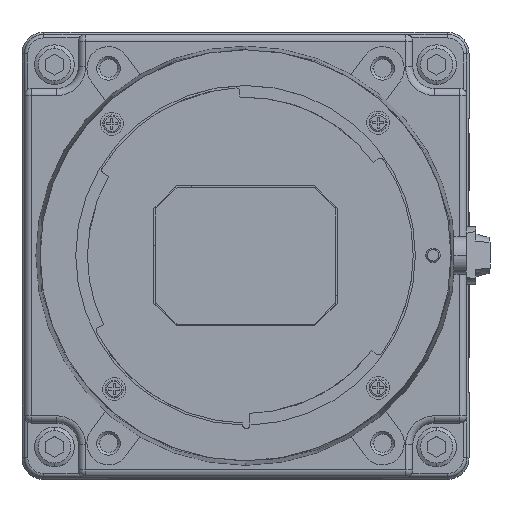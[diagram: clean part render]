
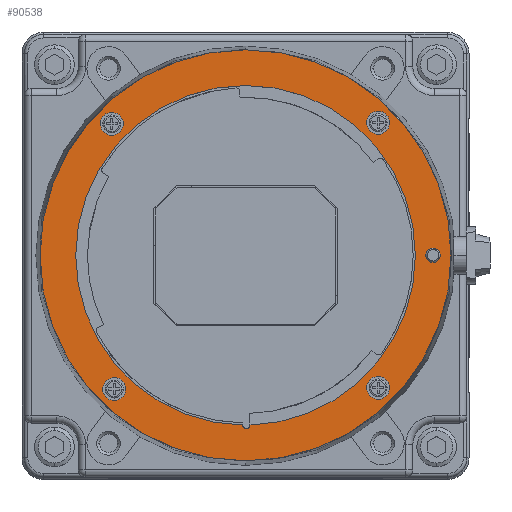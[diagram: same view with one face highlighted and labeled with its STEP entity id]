
A CAD part, top view. The second image highlights one B-rep face of the part: STEP entity #90538.
In plain terms, the highlighted planar face has unit normal (0, 0, 1).
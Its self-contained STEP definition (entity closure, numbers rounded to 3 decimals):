
#30246=CARTESIAN_POINT('',(-55.612,199.,122.901));
#30247=DIRECTION('',(0.,0.,-1.));
#30248=DIRECTION('',(0.,-1.,0.));
#30249=AXIS2_PLACEMENT_3D('',#30246,#30247,#30248);
#30251=CARTESIAN_POINT('',(-55.612,199.,122.901));
#30252=DIRECTION('',(0.,0.,-1.));
#30253=DIRECTION('',(0.,1.,0.));
#30254=AXIS2_PLACEMENT_3D('',#30251,#30252,#30253);
#30256=CARTESIAN_POINT('',(-29.612,199.,122.901));
#30257=DIRECTION('',(0.,0.,1.));
#30258=DIRECTION('',(1.,0.,0.));
#30259=AXIS2_PLACEMENT_3D('',#30256,#30257,#30258);
#30261=CARTESIAN_POINT('',(-29.612,199.,122.901));
#30262=DIRECTION('',(0.,0.,1.));
#30263=DIRECTION('',(-1.,0.,0.));
#30264=AXIS2_PLACEMENT_3D('',#30261,#30262,#30263);
#30266=CARTESIAN_POINT('',(-37.228,217.385,
122.901));
#30267=DIRECTION('',(0.,0.,1.));
#30268=DIRECTION('',(1.,0.,0.));
#30269=AXIS2_PLACEMENT_3D('',#30266,#30267,#30268);
#30271=CARTESIAN_POINT('',(-37.228,217.385,
122.901));
#30272=DIRECTION('',(0.,0.,1.));
#30273=DIRECTION('',(-1.,0.,0.));
#30274=AXIS2_PLACEMENT_3D('',#30271,#30272,#30273);
#30276=CARTESIAN_POINT('',(-74.157,217.224,
122.901));
#30277=DIRECTION('',(0.,0.,1.));
#30278=DIRECTION('',(-0.009,1.,0.));
#30279=AXIS2_PLACEMENT_3D('',#30276,#30277,#30278);
#30281=CARTESIAN_POINT('',(-74.157,217.224,
122.901));
#30282=DIRECTION('',(0.,0.,1.));
#30283=DIRECTION('',(0.009,-1.,0.));
#30284=AXIS2_PLACEMENT_3D('',#30281,#30282,#30283);
#30286=CARTESIAN_POINT('',(-73.836,180.455,
122.901));
#30287=DIRECTION('',(0.,0.,1.));
#30288=DIRECTION('',(-1.,-0.009,0.));
#30289=AXIS2_PLACEMENT_3D('',#30286,#30287,#30288);
#30291=CARTESIAN_POINT('',(-73.836,180.455,
122.901));
#30292=DIRECTION('',(0.,0.,1.));
#30293=DIRECTION('',(1.,0.009,0.));
#30294=AXIS2_PLACEMENT_3D('',#30291,#30292,#30293);
#30296=CARTESIAN_POINT('',(-37.228,180.615,
122.901));
#30297=DIRECTION('',(0.,0.,1.));
#30298=DIRECTION('',(0.,-1.,0.));
#30299=AXIS2_PLACEMENT_3D('',#30296,#30297,#30298);
#30301=CARTESIAN_POINT('',(-37.228,180.615,
122.901));
#30302=DIRECTION('',(0.,0.,1.));
#30303=DIRECTION('',(0.,1.,0.));
#30304=AXIS2_PLACEMENT_3D('',#30301,#30302,#30303);
#30306=CARTESIAN_POINT('',(-55.612,199.,122.901));
#30307=DIRECTION('',(0.,0.,1.));
#30308=DIRECTION('',(-1.,0.,0.));
#30309=AXIS2_PLACEMENT_3D('',#30306,#30307,#30308);
#30311=CARTESIAN_POINT('',(-55.496,175.45,
122.901));
#30312=DIRECTION('',(0.,0.,1.));
#30313=DIRECTION('',(-1.,0.006,0.));
#30314=AXIS2_PLACEMENT_3D('',#30311,#30312,#30313);
#30316=CARTESIAN_POINT('',(-55.612,199.,122.901));
#30317=DIRECTION('',(0.,0.,1.));
#30318=DIRECTION('',(0.026,-1.,0.));
#30319=AXIS2_PLACEMENT_3D('',#30316,#30317,#30318);
#30321=CARTESIAN_POINT('',(-55.612,199.,122.901));
#30322=DIRECTION('',(0.,0.,1.));
#30323=DIRECTION('',(1.,0.,0.));
#30324=AXIS2_PLACEMENT_3D('',#30321,#30322,#30323);
#56054=CARTESIAN_POINT('',(-55.612,227.5,122.901));
#56055=VERTEX_POINT('',#56054);
#56056=CARTESIAN_POINT('',(-55.612,170.5,122.901));
#56057=VERTEX_POINT('',#56056);
#56058=CARTESIAN_POINT('',(-28.612,199.,122.901));
#56059=CARTESIAN_POINT('',(-30.612,199.,122.901));
#56060=VERTEX_POINT('',#56058);
#56061=VERTEX_POINT('',#56059);
#56062=CARTESIAN_POINT('',(-35.628,217.385,
122.901));
#56063=CARTESIAN_POINT('',(-38.828,217.385,
122.901));
#56064=VERTEX_POINT('',#56062);
#56065=VERTEX_POINT('',#56063);
#56066=CARTESIAN_POINT('',(-74.171,218.824,
122.901));
#56067=CARTESIAN_POINT('',(-74.143,215.624,
122.901));
#56068=VERTEX_POINT('',#56066);
#56069=VERTEX_POINT('',#56067);
#56070=CARTESIAN_POINT('',(-75.436,180.442,
122.901));
#56071=CARTESIAN_POINT('',(-72.236,180.469,
122.901));
#56072=VERTEX_POINT('',#56070);
#56073=VERTEX_POINT('',#56071);
#56074=CARTESIAN_POINT('',(-37.228,179.015,
122.901));
#56075=CARTESIAN_POINT('',(-37.228,182.215,
122.901));
#56076=VERTEX_POINT('',#56074);
#56077=VERTEX_POINT('',#56075);
#56078=CARTESIAN_POINT('',(-79.162,199.,122.901));
#56079=CARTESIAN_POINT('',(-55.996,175.453,
122.901));
#56080=VERTEX_POINT('',#56078);
#56081=VERTEX_POINT('',#56079);
#56082=CARTESIAN_POINT('',(-54.996,175.458,
122.901));
#56083=VERTEX_POINT('',#56082);
#56084=CARTESIAN_POINT('',(-32.062,199.,122.901));
#56085=VERTEX_POINT('',#56084);
#90489=CARTESIAN_POINT('',(-55.612,199.,122.901));
#90490=DIRECTION('',(0.,0.,1.));
#90491=DIRECTION('',(1.,0.,0.));
#90492=AXIS2_PLACEMENT_3D('',#90489,#90490,#90491);
#90493=PLANE('',#90492);
#90494=ORIENTED_EDGE('',*,*,#90469,.T.);
#90495=ORIENTED_EDGE('',*,*,#90482,.T.);
#90496=EDGE_LOOP('',(#90494,#90495));
#90497=FACE_OUTER_BOUND('',#90496,.F.);
#90499=ORIENTED_EDGE('',*,*,#90498,.T.);
#90501=ORIENTED_EDGE('',*,*,#90500,.T.);
#90502=EDGE_LOOP('',(#90499,#90501));
#90503=FACE_BOUND('',#90502,.F.);
#90505=ORIENTED_EDGE('',*,*,#90504,.T.);
#90507=ORIENTED_EDGE('',*,*,#90506,.T.);
#90508=EDGE_LOOP('',(#90505,#90507));
#90509=FACE_BOUND('',#90508,.F.);
#90511=ORIENTED_EDGE('',*,*,#90510,.T.);
#90513=ORIENTED_EDGE('',*,*,#90512,.T.);
#90514=EDGE_LOOP('',(#90511,#90513));
#90515=FACE_BOUND('',#90514,.F.);
#90517=ORIENTED_EDGE('',*,*,#90516,.T.);
#90519=ORIENTED_EDGE('',*,*,#90518,.T.);
#90520=EDGE_LOOP('',(#90517,#90519));
#90521=FACE_BOUND('',#90520,.F.);
#90523=ORIENTED_EDGE('',*,*,#90522,.T.);
#90525=ORIENTED_EDGE('',*,*,#90524,.T.);
#90526=EDGE_LOOP('',(#90523,#90525));
#90527=FACE_BOUND('',#90526,.F.);
#90529=ORIENTED_EDGE('',*,*,#90528,.T.);
#90531=ORIENTED_EDGE('',*,*,#90530,.T.);
#90533=ORIENTED_EDGE('',*,*,#90532,.T.);
#90535=ORIENTED_EDGE('',*,*,#90534,.T.);
#90536=EDGE_LOOP('',(#90529,#90531,#90533,#90535));
#90537=FACE_BOUND('',#90536,.F.);
#90538=ADVANCED_FACE('',(#90497,#90503,#90509,#90515,#90521,#90527,#90537),
#90493,.T.);
#30250=CIRCLE('',#30249,28.5);
#30255=CIRCLE('',#30254,28.5);
#30260=CIRCLE('',#30259,1.);
#30265=CIRCLE('',#30264,1.);
#30270=CIRCLE('',#30269,1.6);
#30275=CIRCLE('',#30274,1.6);
#30280=CIRCLE('',#30279,1.6);
#30285=CIRCLE('',#30284,1.6);
#30290=CIRCLE('',#30289,1.6);
#30295=CIRCLE('',#30294,1.6);
#30300=CIRCLE('',#30299,1.6);
#30305=CIRCLE('',#30304,1.6);
#30310=CIRCLE('',#30309,23.55);
#30315=CIRCLE('',#30314,0.5);
#30320=CIRCLE('',#30319,23.55);
#30325=CIRCLE('',#30324,23.55);
#90469=EDGE_CURVE('',#56057,#56055,#30250,.T.);
#90482=EDGE_CURVE('',#56055,#56057,#30255,.T.);
#90498=EDGE_CURVE('',#56060,#56061,#30260,.T.);
#90500=EDGE_CURVE('',#56061,#56060,#30265,.T.);
#90504=EDGE_CURVE('',#56064,#56065,#30270,.T.);
#90506=EDGE_CURVE('',#56065,#56064,#30275,.T.);
#90510=EDGE_CURVE('',#56068,#56069,#30280,.T.);
#90512=EDGE_CURVE('',#56069,#56068,#30285,.T.);
#90516=EDGE_CURVE('',#56072,#56073,#30290,.T.);
#90518=EDGE_CURVE('',#56073,#56072,#30295,.T.);
#90522=EDGE_CURVE('',#56076,#56077,#30300,.T.);
#90524=EDGE_CURVE('',#56077,#56076,#30305,.T.);
#90528=EDGE_CURVE('',#56080,#56081,#30310,.T.);
#90530=EDGE_CURVE('',#56081,#56083,#30315,.T.);
#90532=EDGE_CURVE('',#56083,#56085,#30320,.T.);
#90534=EDGE_CURVE('',#56085,#56080,#30325,.T.);
